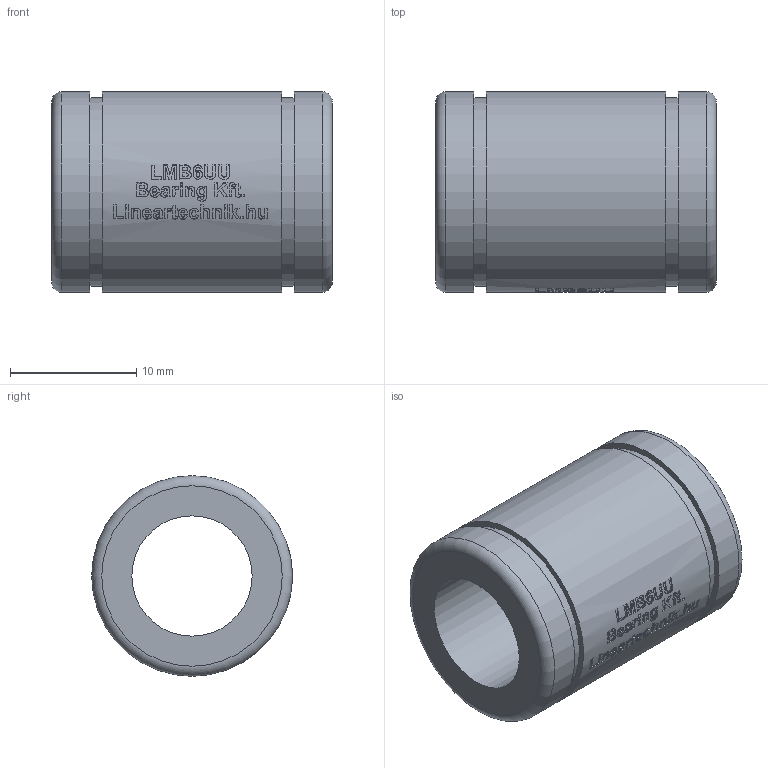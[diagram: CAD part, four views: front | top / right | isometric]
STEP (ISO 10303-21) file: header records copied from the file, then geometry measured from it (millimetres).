
FILE_DESCRIPTION(/* description */ (''),/* implementation_level */ '2;1');
FILE_NAME(/* name */ 'LMB6UU',/* time_stamp */ '2019-05-16T15:31:43+02:00',/* author */ ('VĂ©gh MĂˇtĂ©'),/* organization */ ('Bearing Kft'),/* preprocessor_version */ 'ST-DEVELOPER v16.7',/* originating_system */ 'DEX',/* authorisation */ $);
FILE_SCHEMA (('AUTOMOTIVE_DESIGN {1 0 10303 214 3 1 1}'));
Length unit declared in the file: millimetre
Products named in the file (1): LMB6UU
Bounding box: 22.23 x 15.88 x 15.88 mm (x, y, z)
Volume: 2755.6 mm3; surface area: 2091.3 mm2
Topology: 1 solids, 1 shells, 305 faces, 756 edges, 504 vertices
Faces by surface type: plane 154, bspline 96, cylinder 53, torus 2
Full cylindrical faces by diameter (mm): 9.525 x1, 14.935 x2, 15.875 x3
Entity records: 14250 total; most frequent: CARTESIAN_POINT 7518, ORIENTED_EDGE 1488, DIRECTION 1114, EDGE_CURVE 744, VERTEX_POINT 502, LINE 406, VECTOR 406, EDGE_LOOP 368
